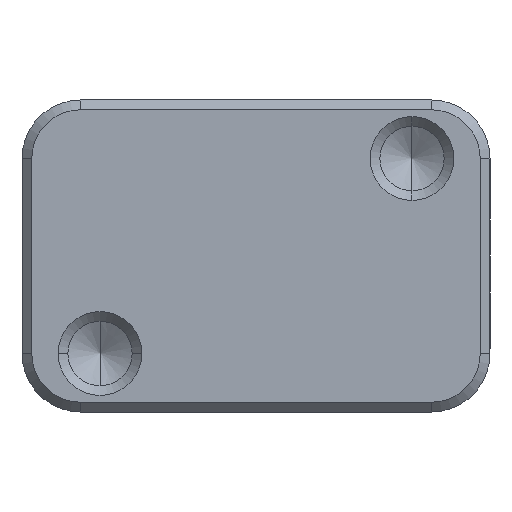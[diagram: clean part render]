
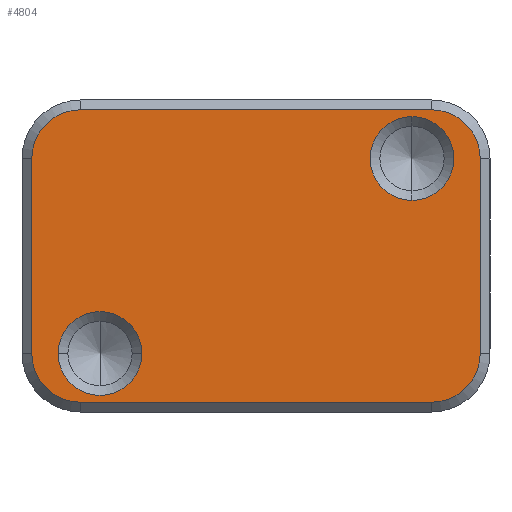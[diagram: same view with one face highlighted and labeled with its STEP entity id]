
A CAD part, front view. The second image highlights one B-rep face of the part: STEP entity #4804.
In plain terms, the highlighted planar face has unit normal (0, -1, 0).
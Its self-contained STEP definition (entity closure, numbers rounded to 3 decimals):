
#112 = CARTESIAN_POINT ( 'NONE',  ( -12., 0., -7.5 ) ) ;
#204 = VERTEX_POINT ( 'NONE', #2159 ) ;
#251 = EDGE_CURVE ( 'NONE', #204, #6802, #11479, .T. ) ;
#263 = DIRECTION ( 'NONE',  ( 0., 1., 0. ) ) ;
#348 = CARTESIAN_POINT ( 'NONE',  ( -5.85, 0., -5. ) ) ;
#454 = DIRECTION ( 'NONE',  ( 0., -1., 0. ) ) ;
#463 = ORIENTED_EDGE ( 'NONE', *, *, #8362, .T. ) ;
#489 = CARTESIAN_POINT ( 'NONE',  ( 11.5, 0., -8. ) ) ;
#798 = VERTEX_POINT ( 'NONE', #11828 ) ;
#850 = ORIENTED_EDGE ( 'NONE', *, *, #7019, .T. ) ;
#1124 = CARTESIAN_POINT ( 'NONE',  ( -11.5, 0., -5. ) ) ;
#1152 = EDGE_CURVE ( 'NONE', #10738, #798, #9186, .T. ) ;
#1301 = AXIS2_PLACEMENT_3D ( 'NONE', #11843, #4925, #8702 ) ;
#1390 = CIRCLE ( 'NONE', #4803, 2.15 ) ;
#1460 = EDGE_CURVE ( 'NONE', #7290, #12812, #9598, .T. ) ;
#2159 = CARTESIAN_POINT ( 'NONE',  ( 9., 0., -7.5 ) ) ;
#2392 = DIRECTION ( 'NONE',  ( 0., 0., -1. ) ) ;
#2449 = VECTOR ( 'NONE', #3321, 1000. ) ;
#2459 = FACE_OUTER_BOUND ( 'NONE', #8222, .T. ) ;
#2559 = CARTESIAN_POINT ( 'NONE',  ( 8., 0., 5. ) ) ;
#2643 = CARTESIAN_POINT ( 'NONE',  ( -9., 0., 7.5 ) ) ;
#2658 = ORIENTED_EDGE ( 'NONE', *, *, #8555, .T. ) ;
#2813 = VECTOR ( 'NONE', #12720, 1000. ) ;
#2899 = DIRECTION ( 'NONE',  ( 1., 0., 0. ) ) ;
#2957 = DIRECTION ( 'NONE',  ( 0., -1., 0. ) ) ;
#3262 = CARTESIAN_POINT ( 'NONE',  ( -12., 0., 7.5 ) ) ;
#3301 = CARTESIAN_POINT ( 'NONE',  ( -9., 0., -5. ) ) ;
#3321 = DIRECTION ( 'NONE',  ( -1., 0., 0. ) ) ;
#3371 = DIRECTION ( 'NONE',  ( 0., 1., 0. ) ) ;
#3421 = DIRECTION ( 'NONE',  ( -1., 0., 0. ) ) ;
#3607 = CIRCLE ( 'NONE', #3832, 2.5 ) ;
#3627 = DIRECTION ( 'NONE',  ( 0., 1., 0. ) ) ;
#3730 = CIRCLE ( 'NONE', #8403, 2.15 ) ;
#3798 = ORIENTED_EDGE ( 'NONE', *, *, #251, .F. ) ;
#3832 = AXIS2_PLACEMENT_3D ( 'NONE', #9495, #263, #6261 ) ;
#4148 = CARTESIAN_POINT ( 'NONE',  ( -8., 0., -5. ) ) ;
#4401 = FACE_BOUND ( 'NONE', #7793, .T. ) ;
#4414 = LINE ( 'NONE', #489, #2813 ) ;
#4513 = DIRECTION ( 'NONE',  ( 0., 0., 1. ) ) ;
#4574 = DIRECTION ( 'NONE',  ( 0., 0., -1. ) ) ;
#4611 = CARTESIAN_POINT ( 'NONE',  ( 8., 0., 2.85 ) ) ;
#4803 = AXIS2_PLACEMENT_3D ( 'NONE', #9752, #3627, #2899 ) ;
#4804 = ADVANCED_FACE ( 'NONE', ( #2459, #7271, #4401 ), #7395, .T. ) ;
#4899 = ORIENTED_EDGE ( 'NONE', *, *, #6654, .T. ) ;
#4925 = DIRECTION ( 'NONE',  ( 0., 1., 0. ) ) ;
#5006 = EDGE_CURVE ( 'NONE', #12347, #204, #3607, .T. ) ;
#5140 = CARTESIAN_POINT ( 'NONE',  ( 8., 0., 7.15 ) ) ;
#5173 = ORIENTED_EDGE ( 'NONE', *, *, #6410, .T. ) ;
#5248 = VERTEX_POINT ( 'NONE', #5140 ) ;
#5345 = VECTOR ( 'NONE', #2392, 1000. ) ;
#5603 = ORIENTED_EDGE ( 'NONE', *, *, #5006, .F. ) ;
#5645 = CARTESIAN_POINT ( 'NONE',  ( 11.5, 0., -5. ) ) ;
#5726 = CARTESIAN_POINT ( 'NONE',  ( -11.5, 0., 5. ) ) ;
#5957 = DIRECTION ( 'NONE',  ( 0., 0., 1. ) ) ;
#6212 = DIRECTION ( 'NONE',  ( 0., 1., 0. ) ) ;
#6218 = AXIS2_PLACEMENT_3D ( 'NONE', #4148, #6212, #8390 ) ;
#6261 = DIRECTION ( 'NONE',  ( 0., 0., 1. ) ) ;
#6269 = CIRCLE ( 'NONE', #7965, 2.5 ) ;
#6400 = LINE ( 'NONE', #9512, #5345 ) ;
#6410 = EDGE_CURVE ( 'NONE', #11573, #5248, #12984, .T. ) ;
#6654 = EDGE_CURVE ( 'NONE', #8236, #12091, #8178, .T. ) ;
#6719 = ORIENTED_EDGE ( 'NONE', *, *, #8859, .T. ) ;
#6802 = VERTEX_POINT ( 'NONE', #8686 ) ;
#7019 = EDGE_CURVE ( 'NONE', #11179, #6802, #6269, .T. ) ;
#7071 = AXIS2_PLACEMENT_3D ( 'NONE', #9080, #2957, #5957 ) ;
#7271 = FACE_BOUND ( 'NONE', #8297, .T. ) ;
#7290 = VERTEX_POINT ( 'NONE', #8391 ) ;
#7395 = PLANE ( 'NONE',  #9565 ) ;
#7458 = CARTESIAN_POINT ( 'NONE',  ( -12., 0., -8. ) ) ;
#7492 = DIRECTION ( 'NONE',  ( 0., -1., 0. ) ) ;
#7503 = VECTOR ( 'NONE', #3421, 1000. ) ;
#7793 = EDGE_LOOP ( 'NONE', ( #5173, #463 ) ) ;
#7965 = AXIS2_PLACEMENT_3D ( 'NONE', #3301, #7492, #11422 ) ;
#7977 = ORIENTED_EDGE ( 'NONE', *, *, #11561, .T. ) ;
#8178 = CIRCLE ( 'NONE', #8379, 2.5 ) ;
#8222 = EDGE_LOOP ( 'NONE', ( #5603, #7977, #10543, #6719, #4899, #11799, #850, #3798 ) ) ;
#8236 = VERTEX_POINT ( 'NONE', #2643 ) ;
#8297 = EDGE_LOOP ( 'NONE', ( #2658, #9840 ) ) ;
#8362 = EDGE_CURVE ( 'NONE', #5248, #11573, #3730, .T. ) ;
#8379 = AXIS2_PLACEMENT_3D ( 'NONE', #9558, #454, #4513 ) ;
#8390 = DIRECTION ( 'NONE',  ( 1., 0., 0. ) ) ;
#8391 = CARTESIAN_POINT ( 'NONE',  ( -10.15, 0., -5. ) ) ;
#8403 = AXIS2_PLACEMENT_3D ( 'NONE', #2559, #3371, #4574 ) ;
#8555 = EDGE_CURVE ( 'NONE', #12812, #7290, #1390, .T. ) ;
#8583 = DIRECTION ( 'NONE',  ( 0., 0., -1. ) ) ;
#8686 = CARTESIAN_POINT ( 'NONE',  ( -9., 0., -7.5 ) ) ;
#8702 = DIRECTION ( 'NONE',  ( 0., 0., -1. ) ) ;
#8798 = CARTESIAN_POINT ( 'NONE',  ( 11.5, 0., 5. ) ) ;
#8859 = EDGE_CURVE ( 'NONE', #798, #8236, #9316, .T. ) ;
#9080 = CARTESIAN_POINT ( 'NONE',  ( 9., 0., 5. ) ) ;
#9186 = CIRCLE ( 'NONE', #7071, 2.5 ) ;
#9316 = LINE ( 'NONE', #3262, #2449 ) ;
#9495 = CARTESIAN_POINT ( 'NONE',  ( 9., 0., -5. ) ) ;
#9512 = CARTESIAN_POINT ( 'NONE',  ( -11.5, 0., -8. ) ) ;
#9558 = CARTESIAN_POINT ( 'NONE',  ( -9., 0., 5. ) ) ;
#9565 = AXIS2_PLACEMENT_3D ( 'NONE', #7458, #9709, #8583 ) ;
#9598 = CIRCLE ( 'NONE', #6218, 2.15 ) ;
#9709 = DIRECTION ( 'NONE',  ( 0., -1., 0. ) ) ;
#9752 = CARTESIAN_POINT ( 'NONE',  ( -8., 0., -5. ) ) ;
#9840 = ORIENTED_EDGE ( 'NONE', *, *, #1460, .T. ) ;
#10543 = ORIENTED_EDGE ( 'NONE', *, *, #1152, .T. ) ;
#10738 = VERTEX_POINT ( 'NONE', #8798 ) ;
#11179 = VERTEX_POINT ( 'NONE', #1124 ) ;
#11422 = DIRECTION ( 'NONE',  ( 0., 0., 1. ) ) ;
#11479 = LINE ( 'NONE', #112, #7503 ) ;
#11561 = EDGE_CURVE ( 'NONE', #12347, #10738, #4414, .T. ) ;
#11573 = VERTEX_POINT ( 'NONE', #4611 ) ;
#11799 = ORIENTED_EDGE ( 'NONE', *, *, #12023, .T. ) ;
#11828 = CARTESIAN_POINT ( 'NONE',  ( 9., 0., 7.5 ) ) ;
#11843 = CARTESIAN_POINT ( 'NONE',  ( 8., 0., 5. ) ) ;
#12023 = EDGE_CURVE ( 'NONE', #12091, #11179, #6400, .T. ) ;
#12091 = VERTEX_POINT ( 'NONE', #5726 ) ;
#12347 = VERTEX_POINT ( 'NONE', #5645 ) ;
#12720 = DIRECTION ( 'NONE',  ( 0., 0., 1. ) ) ;
#12812 = VERTEX_POINT ( 'NONE', #348 ) ;
#12984 = CIRCLE ( 'NONE', #1301, 2.15 ) ;
